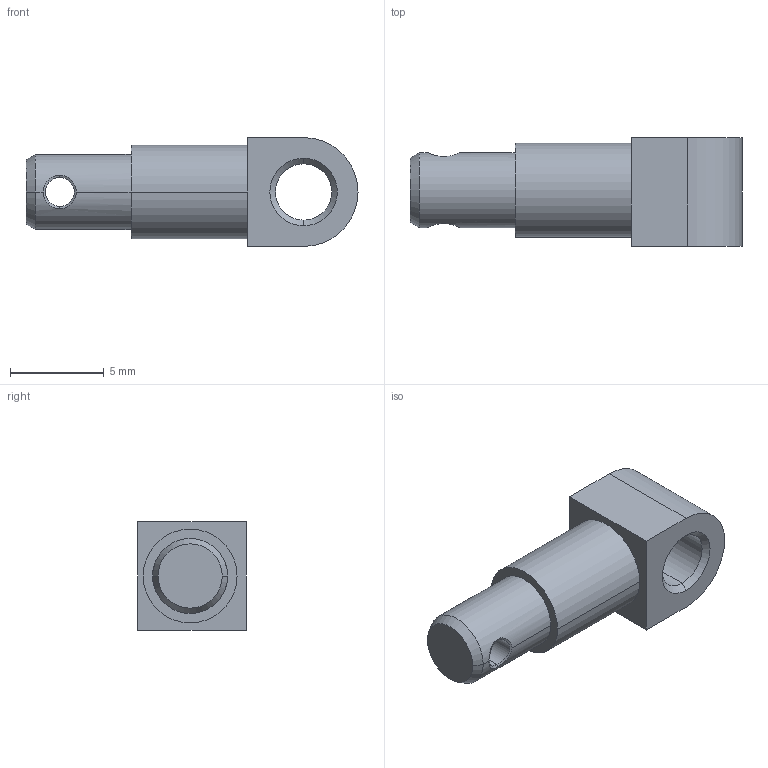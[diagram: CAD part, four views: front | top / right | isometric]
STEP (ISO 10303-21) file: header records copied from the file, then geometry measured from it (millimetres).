
FILE_DESCRIPTION (( 'STEP AP214' ), '1' );
FILE_NAME ('bronze-eyelet-tip.STEP', '2026-08-10T05:15:22', ( '' ), ( '' ), 'SwSTEP 2.0', 'SolidWorks 2019', '' );
FILE_SCHEMA (( 'AUTOMOTIVE_DESIGN' ));
Length unit declared in the file: millimetre
Products named in the file (2): bronze-eyelet-tip
Bounding box: 17.7 x 5.8 x 5.8 mm (x, y, z)
Volume: 319.5 mm3; surface area: 398.9 mm2
Topology: 1 solids, 1 shells, 26 faces, 64 edges, 40 vertices
Faces by surface type: cylinder 9, plane 7, cone 6, bspline 4
Entity records: 2770 total; most frequent: CARTESIAN_POINT 2129, ORIENTED_EDGE 128, DIRECTION 114, EDGE_CURVE 64, AXIS2_PLACEMENT_3D 44, VERTEX_POINT 40, EDGE_LOOP 30, FACE_OUTER_BOUND 26
